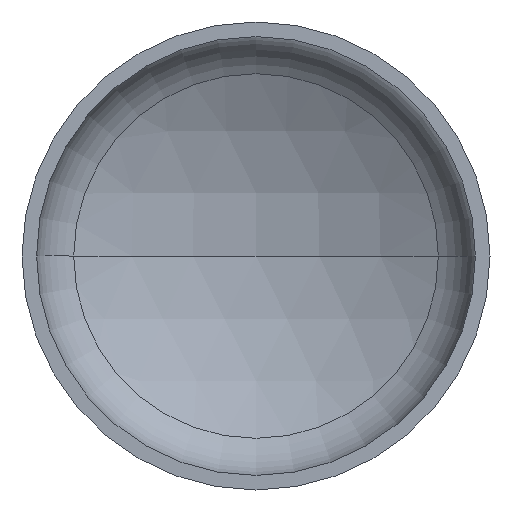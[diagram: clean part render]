
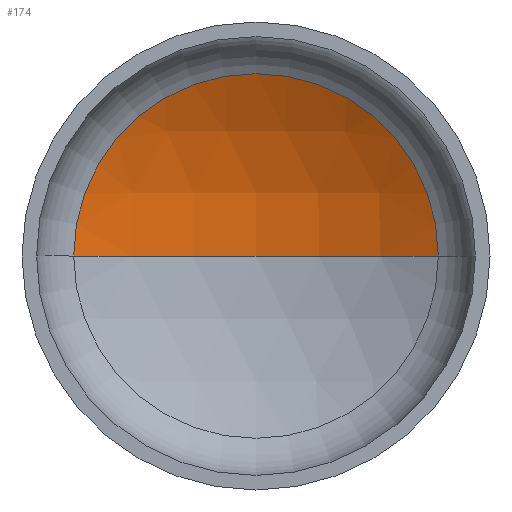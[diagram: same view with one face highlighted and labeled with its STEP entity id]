
A CAD part, front view. The second image highlights one B-rep face of the part: STEP entity #174.
In plain terms, the highlighted spherical face has radius 2720 mm.
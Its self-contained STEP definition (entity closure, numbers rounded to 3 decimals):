
#7 = CARTESIAN_POINT ( 'NONE',  ( 0., 533.531, 0. ) ) ;
#9 = EDGE_LOOP ( 'NONE', ( #66, #163, #86 ) ) ;
#18 = AXIS2_PLACEMENT_3D ( 'NONE', #328, #83, #361 ) ;
#32 = VERTEX_POINT ( 'NONE', #262 ) ;
#66 = ORIENTED_EDGE ( 'NONE', *, *, #371, .F. ) ;
#68 = VERTEX_POINT ( 'NONE', #238 ) ;
#74 = VERTEX_POINT ( 'NONE', #253 ) ;
#83 = DIRECTION ( 'NONE',  ( 0., 0., 1. ) ) ;
#86 = ORIENTED_EDGE ( 'NONE', *, *, #192, .T. ) ;
#111 = AXIS2_PLACEMENT_3D ( 'NONE', #220, #222, #269 ) ;
#117 = AXIS2_PLACEMENT_3D ( 'NONE', #7, #180, #204 ) ;
#146 = AXIS2_PLACEMENT_3D ( 'NONE', #352, #327, #353 ) ;
#163 = ORIENTED_EDGE ( 'NONE', *, *, #195, .T. ) ;
#174 = ADVANCED_FACE ( 'NONE', ( #356 ), #288, .F. ) ;
#180 = DIRECTION ( 'NONE',  ( 0., -1., 0. ) ) ;
#192 = EDGE_CURVE ( 'NONE', #74, #32, #394, .T. ) ;
#195 = EDGE_CURVE ( 'NONE', #68, #74, #341, .T. ) ;
#204 = DIRECTION ( 'NONE',  ( 1., 0., 0. ) ) ;
#220 = CARTESIAN_POINT ( 'NONE',  ( 0., -1842.098, 0. ) ) ;
#222 = DIRECTION ( 'NONE',  ( 0., 0., -1. ) ) ;
#238 = CARTESIAN_POINT ( 'NONE',  ( 0., 877.902, 0. ) ) ;
#253 = CARTESIAN_POINT ( 'NONE',  ( 1324.683, 533.531, 0. ) ) ;
#262 = CARTESIAN_POINT ( 'NONE',  ( -1324.683, 533.531, 0. ) ) ;
#269 = DIRECTION ( 'NONE',  ( -1., 0., 0. ) ) ;
#288 = SPHERICAL_SURFACE ( 'NONE', #146, 2720. ) ;
#306 = CIRCLE ( 'NONE', #18, 2720. ) ;
#327 = DIRECTION ( 'NONE',  ( 0., 0., -1. ) ) ;
#328 = CARTESIAN_POINT ( 'NONE',  ( 0., -1842.098, 0. ) ) ;
#341 = CIRCLE ( 'NONE', #111, 2720. ) ;
#352 = CARTESIAN_POINT ( 'NONE',  ( 0., -1842.098, 0. ) ) ;
#353 = DIRECTION ( 'NONE',  ( -1., 0., 0. ) ) ;
#356 = FACE_OUTER_BOUND ( 'NONE', #9, .T. ) ;
#361 = DIRECTION ( 'NONE',  ( 1., 0., 0. ) ) ;
#371 = EDGE_CURVE ( 'NONE', #68, #32, #306, .T. ) ;
#394 = CIRCLE ( 'NONE', #117, 1324.683 ) ;
